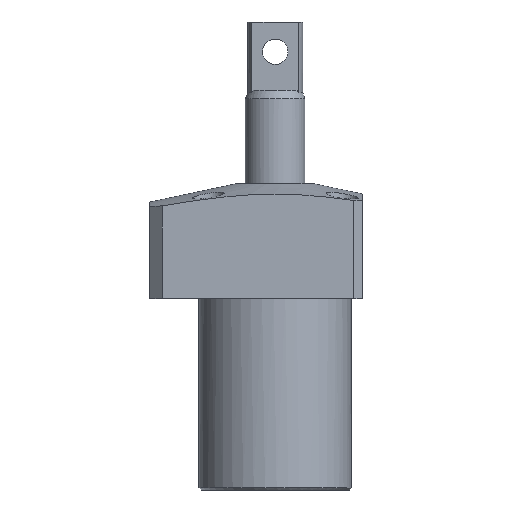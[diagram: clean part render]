
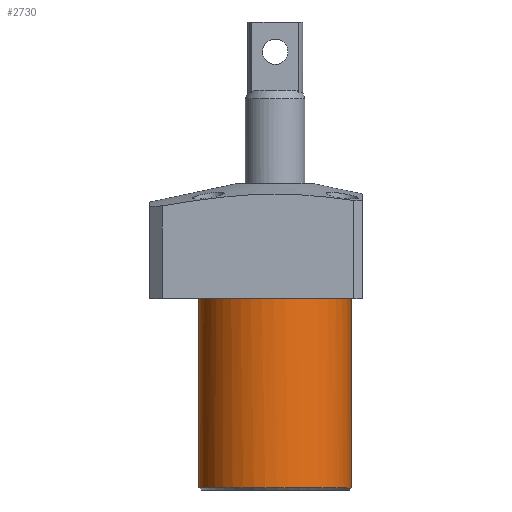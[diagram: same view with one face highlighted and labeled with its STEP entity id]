
A CAD part, front view. The second image highlights one B-rep face of the part: STEP entity #2730.
In plain terms, the highlighted free-form (B-spline) face has degree [1, 3] with [2, 4] control points.
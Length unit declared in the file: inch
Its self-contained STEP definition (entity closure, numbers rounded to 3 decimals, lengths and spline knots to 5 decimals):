
#125 = CARTESIAN_POINT ( 'NONE',  ( 0.70472, -1.40945, 0.01969 ) ) ;
#155 = ORIENTED_EDGE ( 'NONE', *, *, #2195, .T. ) ;
#255 = ORIENTED_EDGE ( 'NONE', *, *, #285, .T. ) ;
#285 = EDGE_CURVE ( 'NONE', #2534, #1709, #2865, .T. ) ;
#360 = VERTEX_POINT ( 'NONE', #715 ) ;
#473 = CARTESIAN_POINT ( 'NONE',  ( 0.70472, -1.40945, 1.77165 ) ) ;
#551 =( BOUNDED_CURVE ( )  B_SPLINE_CURVE ( 3, ( #1122, #2303, #2619, #2328 ),
 .UNSPECIFIED., .F., .T. ) 
 B_SPLINE_CURVE_WITH_KNOTS ( ( 4, 4 ),
 ( -3.14159, 0. ),
 .UNSPECIFIED. ) 
 CURVE ( )  GEOMETRIC_REPRESENTATION_ITEM ( )  RATIONAL_B_SPLINE_CURVE ( ( 1., 0.333, 0.333, 1. ) ) 
 REPRESENTATION_ITEM ( '' )  );
#715 = CARTESIAN_POINT ( 'NONE',  ( -0.70472, 0., 1.77165 ) ) ;
#723 = CARTESIAN_POINT ( 'NONE',  ( 0.70472, 0., 0.01969 ) ) ;
#739 = CARTESIAN_POINT ( 'NONE',  ( -0.70472, 0., 0.01969 ) ) ;
#762 = CARTESIAN_POINT ( 'NONE',  ( 0.70472, 0., 0.01969 ) ) ;
#1050 = ORIENTED_EDGE ( 'NONE', *, *, #2934, .T. ) ;
#1061 = VERTEX_POINT ( 'NONE', #2636 ) ;
#1122 = CARTESIAN_POINT ( 'NONE',  ( 0.70472, 0., 1.77165 ) ) ;
#1147 = CARTESIAN_POINT ( 'NONE',  ( 0.70472, 0., 1.77165 ) ) ;
#1221 = CARTESIAN_POINT ( 'NONE',  ( -0.70472, 0., 0.01969 ) ) ;
#1365 = B_SPLINE_CURVE_WITH_KNOTS ( 'NONE', 1,
 ( #3072, #1221 ),
 .UNSPECIFIED., .F., .F.,
 ( 2, 2 ),
 ( -1., 0. ),
 .UNSPECIFIED. ) ;
#1368 =( BOUNDED_CURVE ( )  B_SPLINE_CURVE ( 3, ( #3529, #3234, #125, #762 ),
 .UNSPECIFIED., .F., .T. ) 
 B_SPLINE_CURVE_WITH_KNOTS ( ( 4, 4 ),
 ( -6.28319, -3.14159 ),
 .UNSPECIFIED. ) 
 CURVE ( )  GEOMETRIC_REPRESENTATION_ITEM ( )  RATIONAL_B_SPLINE_CURVE ( ( 1., 0.333, 0.333, 1. ) ) 
 REPRESENTATION_ITEM ( '' )  );
#1404 = ORIENTED_EDGE ( 'NONE', *, *, #2018, .T. ) ;
#1618 = FACE_OUTER_BOUND ( 'NONE', #1664, .T. ) ;
#1664 = EDGE_LOOP ( 'NONE', ( #1404, #1050, #155, #255 ) ) ;
#1698 = CARTESIAN_POINT ( 'NONE',  ( 0.70472, -1.40945, 0.01969 ) ) ;
#1709 = VERTEX_POINT ( 'NONE', #3574 ) ;
#1842 = CARTESIAN_POINT ( 'NONE',  ( 0.70472, 0., 0.01969 ) ) ;
#1985 = CARTESIAN_POINT ( 'NONE',  ( -0.70472, 0., 1.77165 ) ) ;
#2018 = EDGE_CURVE ( 'NONE', #1709, #360, #551, .T. ) ;
#2195 = EDGE_CURVE ( 'NONE', #1061, #2534, #1368, .T. ) ;
#2295 = CARTESIAN_POINT ( 'NONE',  ( 0.70472, 0., 1.77165 ) ) ;
#2303 = CARTESIAN_POINT ( 'NONE',  ( 0.70472, -1.40945, 1.77165 ) ) ;
#2328 = CARTESIAN_POINT ( 'NONE',  ( -0.70472, 0., 1.77165 ) ) ;
#2503 =( BOUNDED_SURFACE ( )  B_SPLINE_SURFACE ( 1, 3, ( 
 ( #2295, #473, #3489, #1985 ),
 ( #723, #1698, #3476, #739 ) ),
 .UNSPECIFIED., .F., .F., .F. ) 
 B_SPLINE_SURFACE_WITH_KNOTS ( ( 2, 2 ),
 ( 4, 4 ),
 ( 0., 1. ),
 ( 0., 1. ),
 .UNSPECIFIED. ) 
 GEOMETRIC_REPRESENTATION_ITEM ( )  RATIONAL_B_SPLINE_SURFACE ( (
 ( 1., 0.333, 0.333, 1.),
 ( 1., 0.333, 0.333, 1.) ) ) 
 REPRESENTATION_ITEM ( '' )  SURFACE ( )  );
#2534 = VERTEX_POINT ( 'NONE', #1842 ) ;
#2619 = CARTESIAN_POINT ( 'NONE',  ( -0.70472, -1.40945, 1.77165 ) ) ;
#2636 = CARTESIAN_POINT ( 'NONE',  ( -0.70472, 0., 0.01969 ) ) ;
#2730 = ADVANCED_FACE ( 'NONE', ( #1618 ), #2503, .F. ) ;
#2865 = B_SPLINE_CURVE_WITH_KNOTS ( 'NONE', 1,
 ( #2907, #1147 ),
 .UNSPECIFIED., .F., .F.,
 ( 2, 2 ),
 ( -1., 0. ),
 .UNSPECIFIED. ) ;
#2907 = CARTESIAN_POINT ( 'NONE',  ( 0.70472, 0., 0.01969 ) ) ;
#2934 = EDGE_CURVE ( 'NONE', #360, #1061, #1365, .T. ) ;
#3072 = CARTESIAN_POINT ( 'NONE',  ( -0.70472, 0., 1.77165 ) ) ;
#3234 = CARTESIAN_POINT ( 'NONE',  ( -0.70472, -1.40945, 0.01969 ) ) ;
#3476 = CARTESIAN_POINT ( 'NONE',  ( -0.70472, -1.40945, 0.01969 ) ) ;
#3489 = CARTESIAN_POINT ( 'NONE',  ( -0.70472, -1.40945, 1.77165 ) ) ;
#3529 = CARTESIAN_POINT ( 'NONE',  ( -0.70472, 0., 0.01969 ) ) ;
#3574 = CARTESIAN_POINT ( 'NONE',  ( 0.70472, 0., 1.77165 ) ) ;
